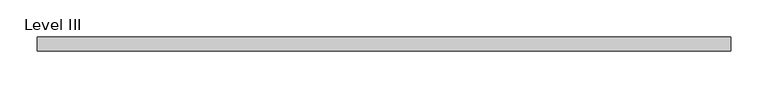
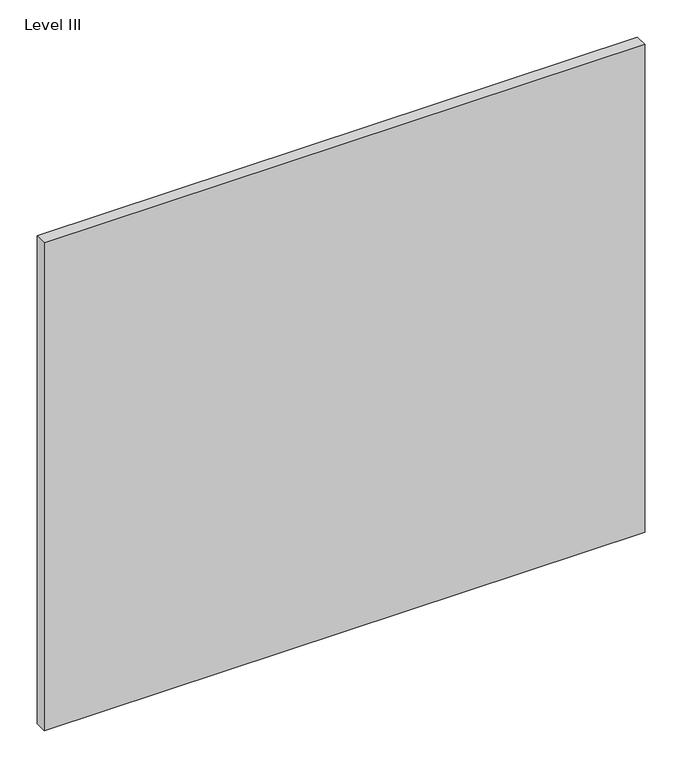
"""IFC4 building model written with IfcOpenShell, lengths in millimetres: proxy geometry, Panel-Fascia-Teknion-Altos-Standard : Level III."""

from ifc_helpers import new_model, si_unit, frame, origin, place, context, project, spatial, polyline, outline, extrude, source, transform, mapped, element, save


def level_iii_5aa971de(model_context):
    return source(origin(), model_context, "Body", "SweptSolid", [
        extrude(outline(polyline([(467.9900391, -9.525), (-467.9900391, -9.525), (-467.9900391, 9.525), (467.9900391, 9.525), (467.9900391, -9.525)])), frame((0.0, 0.0, 3.175), z_axis=(0.0, 0.0, 1.0), x_axis=(1.0, 0.0, 0.0)), (0.0, 0.0, 1.0), 804.418),
    ])


if __name__ == "__main__":
    model = new_model("IFC4")
    model_context = context("Model", 3, world=origin())
    ifc_project = project(units=[si_unit("LENGTHUNIT", "METRE", prefix="MILLI")], contexts=[model_context])
    site = spatial("IfcSite", under=ifc_project)
    building = spatial("IfcBuilding", under=site)
    placement = place(None, origin())
    level_iii_shape = level_iii_5aa971de(model_context)
    element("IfcBuildingElementProxy", 1, Name="Panel-Fascia-Teknion-Altos-Standard : Level III", ObjectType="Panel-Fascia-Teknion-Altos-Standard : Level III", at=placement, inside=building, context=model_context, shape_type="MappedRepresentation", body=[
        mapped(level_iii_shape, transform((0.0, 0.0, 0.0), x_axis=(1.0, 0.0, 0.0), y_axis=(0.0, 1.0, 0.0), z_axis=(0.0, 0.0, 1.0))),
    ])
    save(model, "model.ifc")
